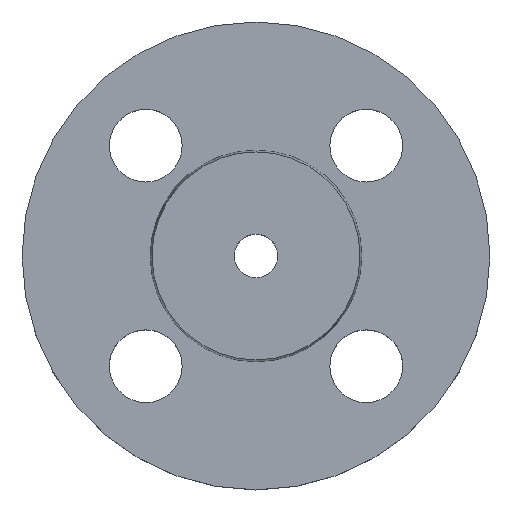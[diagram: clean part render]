
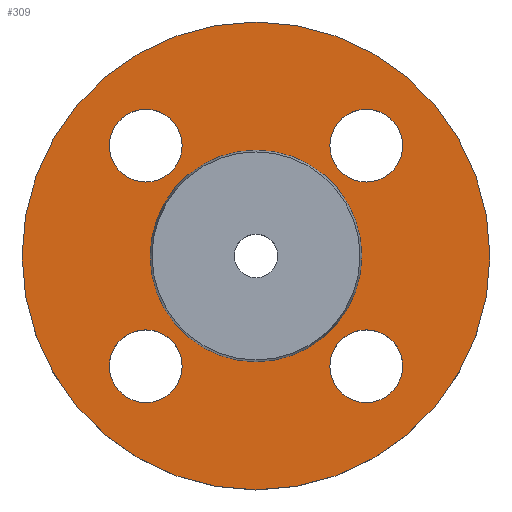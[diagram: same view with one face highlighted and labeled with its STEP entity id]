
A CAD part, top view. The second image highlights one B-rep face of the part: STEP entity #309.
In plain terms, the highlighted planar face has unit normal (0, 0, 1).
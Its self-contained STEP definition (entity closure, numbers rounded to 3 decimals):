
#4 = CIRCLE ( 'NONE', #399, 7. ) ;
#5 = EDGE_CURVE ( 'NONE', #362, #346, #550, .T. ) ;
#15 = CIRCLE ( 'NONE', #208, 7. ) ;
#16 = EDGE_LOOP ( 'NONE', ( #478, #479 ) ) ;
#39 = CARTESIAN_POINT ( 'NONE',  ( -14.213, 21.213, -2. ) ) ;
#42 = PLANE ( 'NONE',  #48 ) ;
#44 = AXIS2_PLACEMENT_3D ( 'NONE', #594, #595, #596 ) ;
#48 = AXIS2_PLACEMENT_3D ( 'NONE', #337, #339, #348 ) ;
#57 = CARTESIAN_POINT ( 'NONE',  ( 21.213, -21.213, -2. ) ) ;
#65 = DIRECTION ( 'NONE',  ( 0., 0., -1. ) ) ;
#68 = DIRECTION ( 'NONE',  ( 1., 0., 0. ) ) ;
#87 = CIRCLE ( 'NONE', #101, 7. ) ;
#95 = EDGE_CURVE ( 'NONE', #574, #578, #220, .T. ) ;
#101 = AXIS2_PLACEMENT_3D ( 'NONE', #139, #175, #147 ) ;
#103 = DIRECTION ( 'NONE',  ( -1., 0., 0. ) ) ;
#104 = DIRECTION ( 'NONE',  ( 0., 0., -1. ) ) ;
#106 = CARTESIAN_POINT ( 'NONE',  ( 0., 0., -2. ) ) ;
#109 = EDGE_CURVE ( 'NONE', #559, #576, #333, .T. ) ;
#110 = CARTESIAN_POINT ( 'NONE',  ( 0., 0., -2. ) ) ;
#114 = EDGE_CURVE ( 'NONE', #346, #362, #15, .T. ) ;
#115 = EDGE_CURVE ( 'NONE', #554, #557, #4, .T. ) ;
#122 = DIRECTION ( 'NONE',  ( -1., 0., 0. ) ) ;
#123 = CARTESIAN_POINT ( 'NONE',  ( -28.213, 21.213, -2. ) ) ;
#124 = DIRECTION ( 'NONE',  ( 0., 0., -1. ) ) ;
#129 = AXIS2_PLACEMENT_3D ( 'NONE', #266, #268, #272 ) ;
#130 = CIRCLE ( 'NONE', #129, 7. ) ;
#139 = CARTESIAN_POINT ( 'NONE',  ( 21.213, -21.213, -2. ) ) ;
#143 = CIRCLE ( 'NONE', #250, 7. ) ;
#147 = DIRECTION ( 'NONE',  ( 1., 0., 0. ) ) ;
#152 = CIRCLE ( 'NONE', #155, 45. ) ;
#155 = AXIS2_PLACEMENT_3D ( 'NONE', #306, #315, #317 ) ;
#175 = DIRECTION ( 'NONE',  ( 0., 0., -1. ) ) ;
#180 = CARTESIAN_POINT ( 'NONE',  ( 45., 0., -2. ) ) ;
#182 = CARTESIAN_POINT ( 'NONE',  ( 28.213, 21.213, -2. ) ) ;
#185 = CARTESIAN_POINT ( 'NONE',  ( -45., 0., -2. ) ) ;
#191 = CARTESIAN_POINT ( 'NONE',  ( 20.353, 0., -2. ) ) ;
#194 = CARTESIAN_POINT ( 'NONE',  ( 14.213, 21.213, -2. ) ) ;
#208 = AXIS2_PLACEMENT_3D ( 'NONE', #678, #679, #680 ) ;
#215 = EDGE_CURVE ( 'NONE', #567, #572, #321, .T. ) ;
#219 = EDGE_CURVE ( 'NONE', #578, #574, #143, .T. ) ;
#220 = CIRCLE ( 'NONE', #232, 7. ) ;
#232 = AXIS2_PLACEMENT_3D ( 'NONE', #656, #669, #670 ) ;
#234 = CARTESIAN_POINT ( 'NONE',  ( -21.213, 21.213, -2. ) ) ;
#235 = DIRECTION ( 'NONE',  ( 0., 0., -1. ) ) ;
#236 = DIRECTION ( 'NONE',  ( 1., 0., 0. ) ) ;
#238 = EDGE_CURVE ( 'NONE', #557, #554, #130, .T. ) ;
#250 = AXIS2_PLACEMENT_3D ( 'NONE', #234, #235, #236 ) ;
#266 = CARTESIAN_POINT ( 'NONE',  ( -21.213, -21.213, -2. ) ) ;
#268 = DIRECTION ( 'NONE',  ( 0., 0., -1. ) ) ;
#269 = CIRCLE ( 'NONE', #277, 45. ) ;
#270 = AXIS2_PLACEMENT_3D ( 'NONE', #106, #104, #103 ) ;
#272 = DIRECTION ( 'NONE',  ( 1., 0., 0. ) ) ;
#277 = AXIS2_PLACEMENT_3D ( 'NONE', #110, #124, #122 ) ;
#295 = EDGE_CURVE ( 'NONE', #345, #475, #152, .T. ) ;
#306 = CARTESIAN_POINT ( 'NONE',  ( 0., 0., -2. ) ) ;
#309 = ADVANCED_FACE ( 'NONE', ( #318, #322, #326, #327, #330, #336 ), #42, .T. ) ;
#315 = DIRECTION ( 'NONE',  ( 0., 0., -1. ) ) ;
#317 = DIRECTION ( 'NONE',  ( -1., 0., 0. ) ) ;
#318 = FACE_BOUND ( 'NONE', #468, .T. ) ;
#321 = CIRCLE ( 'NONE', #324, 7. ) ;
#322 = FACE_BOUND ( 'NONE', #16, .T. ) ;
#324 = AXIS2_PLACEMENT_3D ( 'NONE', #57, #65, #68 ) ;
#326 = FACE_BOUND ( 'NONE', #469, .T. ) ;
#327 = FACE_BOUND ( 'NONE', #565, .T. ) ;
#330 = FACE_BOUND ( 'NONE', #566, .T. ) ;
#333 = CIRCLE ( 'NONE', #371, 20.353 ) ;
#335 = EDGE_CURVE ( 'NONE', #572, #567, #87, .T. ) ;
#336 = FACE_OUTER_BOUND ( 'NONE', #476, .T. ) ;
#337 = CARTESIAN_POINT ( 'NONE',  ( 20.353, 0., -2. ) ) ;
#339 = DIRECTION ( 'NONE',  ( 0., 0., 1. ) ) ;
#345 = VERTEX_POINT ( 'NONE', #185 ) ;
#346 = VERTEX_POINT ( 'NONE', #194 ) ;
#348 = DIRECTION ( 'NONE',  ( 1., 0., 0. ) ) ;
#362 = VERTEX_POINT ( 'NONE', #182 ) ;
#364 = CARTESIAN_POINT ( 'NONE',  ( 28.213, -21.213, -2. ) ) ;
#371 = AXIS2_PLACEMENT_3D ( 'NONE', #675, #676, #677 ) ;
#396 = CARTESIAN_POINT ( 'NONE',  ( -28.213, -21.213, -2. ) ) ;
#399 = AXIS2_PLACEMENT_3D ( 'NONE', #681, #682, #683 ) ;
#406 = CARTESIAN_POINT ( 'NONE',  ( 14.213, -21.213, -2. ) ) ;
#407 = CARTESIAN_POINT ( 'NONE',  ( -14.213, -21.213, -2. ) ) ;
#408 = CIRCLE ( 'NONE', #270, 20.353 ) ;
#409 = CARTESIAN_POINT ( 'NONE',  ( -20.353, 0., -2. ) ) ;
#468 = EDGE_LOOP ( 'NONE', ( #473, #477 ) ) ;
#469 = EDGE_LOOP ( 'NONE', ( #480, #481 ) ) ;
#473 = ORIENTED_EDGE ( 'NONE', *, *, #335, .T. ) ;
#475 = VERTEX_POINT ( 'NONE', #180 ) ;
#476 = EDGE_LOOP ( 'NONE', ( #487, #488 ) ) ;
#477 = ORIENTED_EDGE ( 'NONE', *, *, #215, .T. ) ;
#478 = ORIENTED_EDGE ( 'NONE', *, *, #238, .T. ) ;
#479 = ORIENTED_EDGE ( 'NONE', *, *, #115, .T. ) ;
#480 = ORIENTED_EDGE ( 'NONE', *, *, #219, .T. ) ;
#481 = ORIENTED_EDGE ( 'NONE', *, *, #95, .T. ) ;
#483 = ORIENTED_EDGE ( 'NONE', *, *, #5, .T. ) ;
#484 = ORIENTED_EDGE ( 'NONE', *, *, #114, .T. ) ;
#485 = ORIENTED_EDGE ( 'NONE', *, *, #109, .T. ) ;
#486 = ORIENTED_EDGE ( 'NONE', *, *, #644, .T. ) ;
#487 = ORIENTED_EDGE ( 'NONE', *, *, #617, .F. ) ;
#488 = ORIENTED_EDGE ( 'NONE', *, *, #295, .F. ) ;
#550 = CIRCLE ( 'NONE', #44, 7. ) ;
#554 = VERTEX_POINT ( 'NONE', #396 ) ;
#557 = VERTEX_POINT ( 'NONE', #407 ) ;
#559 = VERTEX_POINT ( 'NONE', #409 ) ;
#565 = EDGE_LOOP ( 'NONE', ( #483, #484 ) ) ;
#566 = EDGE_LOOP ( 'NONE', ( #485, #486 ) ) ;
#567 = VERTEX_POINT ( 'NONE', #406 ) ;
#572 = VERTEX_POINT ( 'NONE', #364 ) ;
#574 = VERTEX_POINT ( 'NONE', #123 ) ;
#576 = VERTEX_POINT ( 'NONE', #191 ) ;
#578 = VERTEX_POINT ( 'NONE', #39 ) ;
#594 = CARTESIAN_POINT ( 'NONE',  ( 21.213, 21.213, -2. ) ) ;
#595 = DIRECTION ( 'NONE',  ( 0., 0., -1. ) ) ;
#596 = DIRECTION ( 'NONE',  ( 1., 0., 0. ) ) ;
#617 = EDGE_CURVE ( 'NONE', #475, #345, #269, .T. ) ;
#644 = EDGE_CURVE ( 'NONE', #576, #559, #408, .T. ) ;
#656 = CARTESIAN_POINT ( 'NONE',  ( -21.213, 21.213, -2. ) ) ;
#669 = DIRECTION ( 'NONE',  ( 0., 0., -1. ) ) ;
#670 = DIRECTION ( 'NONE',  ( 1., 0., 0. ) ) ;
#675 = CARTESIAN_POINT ( 'NONE',  ( 0., 0., -2. ) ) ;
#676 = DIRECTION ( 'NONE',  ( 0., 0., -1. ) ) ;
#677 = DIRECTION ( 'NONE',  ( -1., 0., 0. ) ) ;
#678 = CARTESIAN_POINT ( 'NONE',  ( 21.213, 21.213, -2. ) ) ;
#679 = DIRECTION ( 'NONE',  ( 0., 0., -1. ) ) ;
#680 = DIRECTION ( 'NONE',  ( 1., 0., 0. ) ) ;
#681 = CARTESIAN_POINT ( 'NONE',  ( -21.213, -21.213, -2. ) ) ;
#682 = DIRECTION ( 'NONE',  ( 0., 0., -1. ) ) ;
#683 = DIRECTION ( 'NONE',  ( 1., 0., 0. ) ) ;
